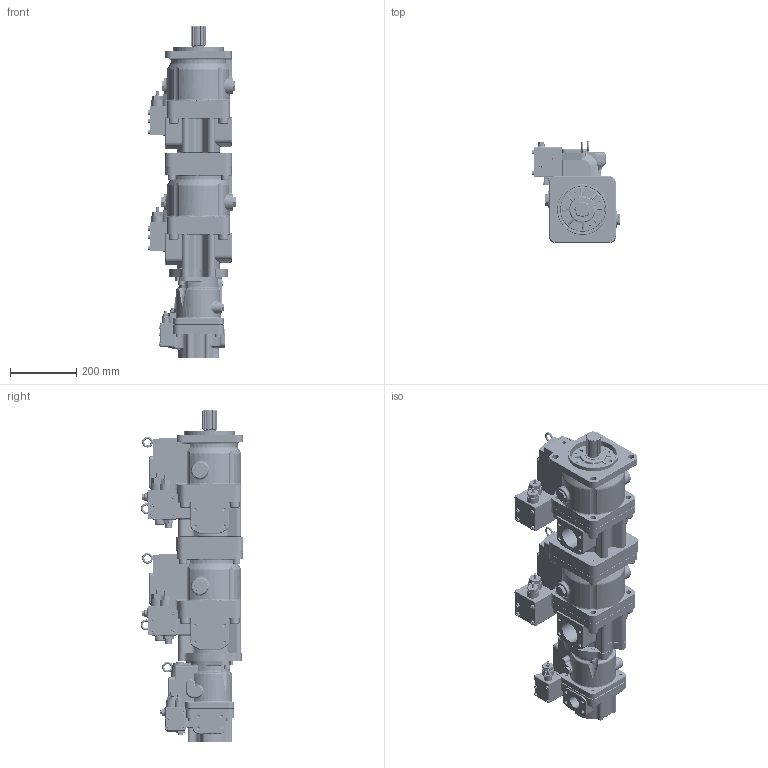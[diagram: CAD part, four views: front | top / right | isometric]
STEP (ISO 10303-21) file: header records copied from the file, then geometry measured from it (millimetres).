
FILE_DESCRIPTION((''),'2;1');
FILE_NAME('I:\Inventor\K3V, M2X\MODEL LIBRARY\K3VL112A 1DLSS PN+K3VL112A 1BBLSS LO+K3VL45A 1ALSM PO.stp','2006-03-06T09:34:46',('mnorman'),(''),'Autodesk Inventor 10','Autodesk Inventor 10','');
FILE_SCHEMA(('AUTOMOTIVE_DESIGN { 1 0 10303 214 1 1 1 1 }'));
Length unit declared in the file: millimetre
Products named in the file (1): Part3
Bounding box: 265.3 x 308.99 x 1002 mm (x, y, z)
Volume: 30323621.6 mm3; surface area: 1634649.8 mm2
Topology: 1 solids, 75 shells, 3841 faces, 9289 edges, 5737 vertices
Faces by surface type: plane 1621, cylinder 852, bspline 734, cone 511, torus 110, sphere 13
Full cylindrical faces by diameter (mm): 6 x4, 6.5 x4, 8 x27, 9.5 x8, 10 x4, 10.106 x2, 11 x4, 12 x16, 12.717 x2, 13 x12, 13.5 x2, 13.835 x2, 16 x12, 18 x14, 20 x22, 21 x3, 21.3 x1, 22 x4, 24 x5, 25 x1, 30 x14, 32 x3, 34 x1, 35.5 x1, 36 x3, 36.7 x2, 38 x1, 40 x2, 41 x4, 42 x1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
Entity records: 152386 total; most frequent: CARTESIAN_POINT 71550, ORIENTED_EDGE 16604, DIRECTION 16029, EDGE_CURVE 8302, AXIS2_PLACEMENT_3D 6180, VERTEX_POINT 5440, EDGE_LOOP 4806, FACE_OUTER_BOUND 3839
